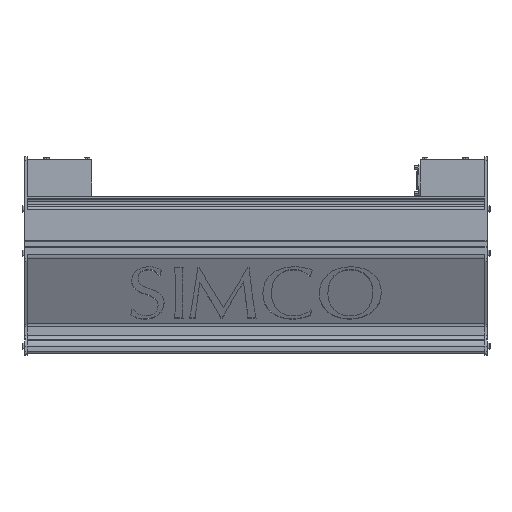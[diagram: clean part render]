
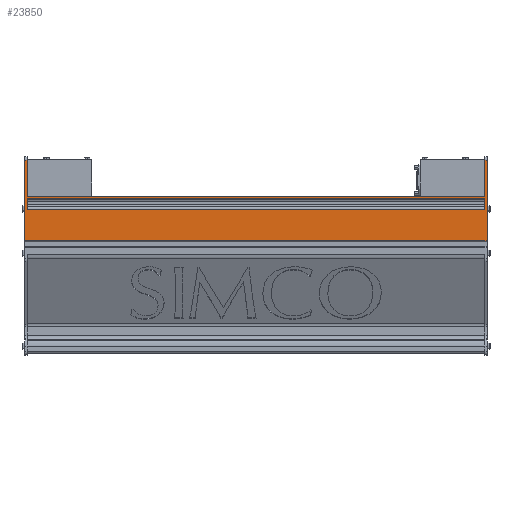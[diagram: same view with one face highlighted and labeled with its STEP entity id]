
A CAD part, top view. The second image highlights one B-rep face of the part: STEP entity #23850.
In plain terms, the highlighted planar face has unit normal (0, 0, 1).
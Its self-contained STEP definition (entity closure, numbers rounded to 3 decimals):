
#23850=ADVANCED_FACE('', (#23860,#23870), #23880, .T.);
#87200=AXIS2_PLACEMENT_3D('Ax2Pl3d', #87210, #87220, #87230);
#327840=CARTESIAN_POINT('', (1448.257,-403.578,400.29))
;
#327850=CARTESIAN_POINT('', (1448.257,-345.896,400.29)
);
#327860=CARTESIAN_POINT('', (1448.257,-345.896,400.29)
);
#328560=CARTESIAN_POINT('', (1452.256,-345.896,400.29)
);
#328570=CARTESIAN_POINT('', (1452.256,-473.208,400.29)
);
#328580=CARTESIAN_POINT('', (1452.256,-473.208,400.29)
);
#329460=CARTESIAN_POINT('', (1448.257,-345.896,400.29)
);
#87210=CARTESIAN_POINT('HicPkt', (725.476,-405.877,
400.29));
#329470=CARTESIAN_POINT('', (1448.257,-403.578,400.29))
;
#329480=CARTESIAN_POINT('', (725.476,-403.578,400.29))
;
#329490=CARTESIAN_POINT('', (725.476,-345.896,400.29)
);
#329500=CARTESIAN_POINT('', (725.476,-345.896,400.29)
);
#329510=CARTESIAN_POINT('', (725.476,-345.896,400.29)
);
#329520=CARTESIAN_POINT('', (721.477,-345.896,400.29)
);
#329530=CARTESIAN_POINT('', (721.477,-473.208,400.29)
);
#329540=CARTESIAN_POINT('', (721.477,-473.208,400.29)
);
#329550=CARTESIAN_POINT('', (1448.257,-473.208,400.29)
);
#329560=CARTESIAN_POINT('', (1448.257,-473.208,400.29)
);
#329570=CARTESIAN_POINT('', (1448.257,-473.208,400.29)
);
#329580=CARTESIAN_POINT('', (1448.257,-405.877,400.29))
;
#329590=CARTESIAN_POINT('', (1448.257,-424.072,400.29)
);
#329600=CARTESIAN_POINT('', (1448.257,-405.877,400.29))
;
#329610=CARTESIAN_POINT('', (1448.257,-424.072,400.29)
);
#329620=CARTESIAN_POINT('', (725.476,-424.072,400.29)
);
#329630=CARTESIAN_POINT('', (725.476,-405.877,400.29))
;
#329640=CARTESIAN_POINT('', (725.476,-405.877,400.29))
;
#329650=CARTESIAN_POINT('', (1448.257,-405.877,400.29))
;
#539940=DIRECTION('', (0.,1.,0.));
#540290=DIRECTION('', (0.,-1.,0.));
#540550=DIRECTION('', (-1.,0.,0.));
#87220=DIRECTION('Axis', (0.,0.,1.));
#87230=DIRECTION('RefDirection', (1.,0.,0.));
#540560=DIRECTION('', (1.,0.,0.));
#540570=DIRECTION('', (0.,1.,0.));
#540580=DIRECTION('', (1.,0.,0.));
#540590=DIRECTION('', (0.,-1.,0.));
#540600=DIRECTION('', (1.,0.,0.));
#540610=DIRECTION('', (-1.,0.,0.));
#540620=DIRECTION('', (0.,1.,0.));
#540630=DIRECTION('', (1.,0.,0.));
#540640=DIRECTION('', (0.,1.,0.));
#540650=DIRECTION('', (1.,0.,0.));
#611500=EDGE_CURVE('', #611490, #611510, #611520, .T.);
#612680=EDGE_CURVE('', #612670, #612690, #612700, .T.);
#614210=EDGE_CURVE('', #612670, #611510, #614220, .T.);
#614230=EDGE_CURVE('', #614240, #611490, #614250, .T.);
#614260=EDGE_CURVE('', #614240, #614270, #614280, .T.);
#614290=EDGE_CURVE('', #614300, #614270, #614310, .T.);
#614320=EDGE_CURVE('', #614300, #614330, #614340, .T.);
#614350=EDGE_CURVE('', #614330, #614360, #614370, .T.);
#614380=EDGE_CURVE('', #612690, #614360, #614390, .T.);
#614400=EDGE_CURVE('', #614410, #614420, #614430, .T.);
#614440=EDGE_CURVE('', #614450, #614410, #614460, .T.);
#614470=EDGE_CURVE('', #614450, #614480, #614490, .T.);
#614500=EDGE_CURVE('', #614480, #614420, #614510, .T.);
#712510=EDGE_LOOP('Edge_loop', (#712520,#712530,#712540,#712550,#712560,
#712570,#712580,#712590,#712600));
#712610=EDGE_LOOP('Edge_loop', (#712620,#712630,#712640,#712650));
#23870=FACE_BOUND('', #712610, .T.);
#23860=FACE_OUTER_BOUND('Face_outer_bound', #712510, .T.);
#611520=LINE('Line', #327850, #830360);
#612700=LINE('Line', #328570, #830710);
#614220=LINE('Line', #329460, #830970);
#614250=LINE('Line', #329470, #830980);
#614280=LINE('Line', #329490, #830990);
#614310=LINE('Line', #329510, #831000);
#614340=LINE('Line', #329530, #831010);
#614370=LINE('Line', #329550, #831020);
#614390=LINE('Line', #329570, #831030);
#614430=LINE('Line', #329580, #831040);
#614460=LINE('Line', #329610, #831050);
#614490=LINE('Line', #329630, #831060);
#614510=LINE('Line', #329650, #831070);
#712520=ORIENTED_EDGE('', *, *, #614210, .T.);
#712530=ORIENTED_EDGE('', *, *, #611500, .F.);
#712540=ORIENTED_EDGE('', *, *, #614230, .F.);
#712550=ORIENTED_EDGE('', *, *, #614260, .T.);
#712560=ORIENTED_EDGE('', *, *, #614290, .F.);
#712570=ORIENTED_EDGE('', *, *, #614320, .T.);
#712580=ORIENTED_EDGE('', *, *, #614350, .T.);
#712590=ORIENTED_EDGE('', *, *, #614380, .F.);
#712600=ORIENTED_EDGE('', *, *, #612680, .F.);
#712620=ORIENTED_EDGE('', *, *, #614400, .F.);
#712630=ORIENTED_EDGE('', *, *, #614440, .F.);
#712640=ORIENTED_EDGE('', *, *, #614470, .T.);
#712650=ORIENTED_EDGE('', *, *, #614500, .T.);
#23880=PLANE('Plane', #87200);
#830360=VECTOR('', #539940, 57.682);
#830710=VECTOR('', #540290, 127.312);
#830970=VECTOR('', #540550, 3.999);
#830980=VECTOR('', #540560, 722.782);
#830990=VECTOR('', #540570, 57.682);
#831000=VECTOR('', #540580, 3.999);
#831010=VECTOR('', #540590, 127.312);
#831020=VECTOR('', #540600, 726.78);
#831030=VECTOR('', #540610, 3.999);
#831040=VECTOR('', #540620, 18.195);
#831050=VECTOR('', #540630, 722.782);
#831060=VECTOR('', #540640, 18.195);
#831070=VECTOR('', #540650, 722.782);
#611490=VERTEX_POINT('', #327840);
#611510=VERTEX_POINT('', #327860);
#612670=VERTEX_POINT('', #328560);
#612690=VERTEX_POINT('', #328580);
#614240=VERTEX_POINT('', #329480);
#614270=VERTEX_POINT('', #329500);
#614300=VERTEX_POINT('', #329520);
#614330=VERTEX_POINT('', #329540);
#614360=VERTEX_POINT('', #329560);
#614410=VERTEX_POINT('', #329590);
#614420=VERTEX_POINT('', #329600);
#614450=VERTEX_POINT('', #329620);
#614480=VERTEX_POINT('', #329640);
